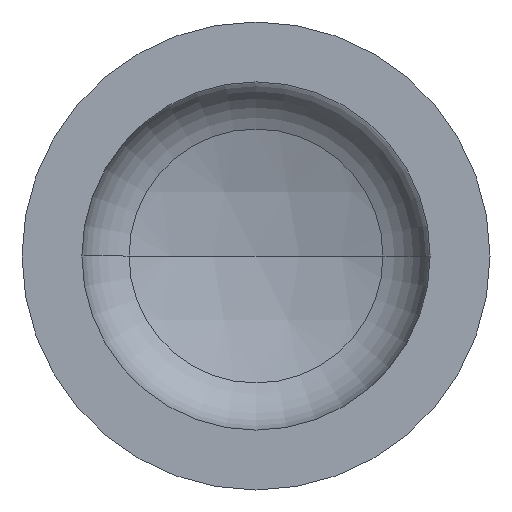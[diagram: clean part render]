
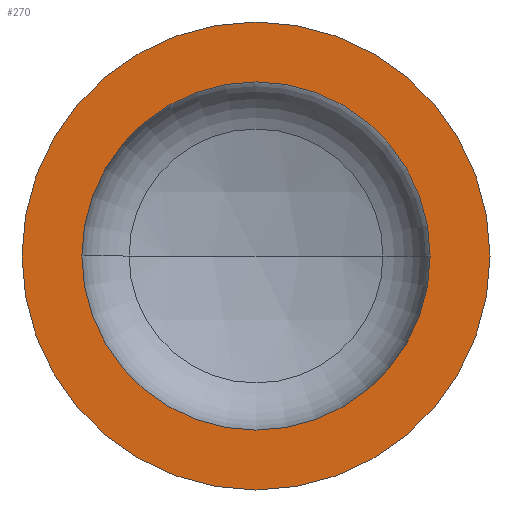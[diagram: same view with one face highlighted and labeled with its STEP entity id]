
A CAD part, front view. The second image highlights one B-rep face of the part: STEP entity #270.
In plain terms, the highlighted planar face has unit normal (0, -1, 0).
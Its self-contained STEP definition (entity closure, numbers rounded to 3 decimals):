
#4 = EDGE_LOOP ( 'NONE', ( #327, #29 ) ) ;
#6 = AXIS2_PLACEMENT_3D ( 'NONE', #404, #218, #387 ) ;
#8 = CARTESIAN_POINT ( 'NONE',  ( -203.2, 0., 0. ) ) ;
#13 = AXIS2_PLACEMENT_3D ( 'NONE', #160, #381, #25 ) ;
#18 = VERTEX_POINT ( 'NONE', #276 ) ;
#25 = DIRECTION ( 'NONE',  ( 1., 0., 0. ) ) ;
#27 = VERTEX_POINT ( 'NONE', #244 ) ;
#29 = ORIENTED_EDGE ( 'NONE', *, *, #338, .T. ) ;
#32 = AXIS2_PLACEMENT_3D ( 'NONE', #391, #167, #115 ) ;
#47 = AXIS2_PLACEMENT_3D ( 'NONE', #247, #245, #272 ) ;
#52 = AXIS2_PLACEMENT_3D ( 'NONE', #8, #188, #185 ) ;
#60 = EDGE_LOOP ( 'NONE', ( #68, #129 ) ) ;
#65 = VERTEX_POINT ( 'NONE', #278 ) ;
#68 = ORIENTED_EDGE ( 'NONE', *, *, #324, .F. ) ;
#80 = VERTEX_POINT ( 'NONE', #220 ) ;
#115 = DIRECTION ( 'NONE',  ( 1., 0., 0. ) ) ;
#118 = CIRCLE ( 'NONE', #32, 151.2 ) ;
#129 = ORIENTED_EDGE ( 'NONE', *, *, #292, .F. ) ;
#160 = CARTESIAN_POINT ( 'NONE',  ( 0., 0., 0. ) ) ;
#167 = DIRECTION ( 'NONE',  ( 0., -1., 0. ) ) ;
#185 = DIRECTION ( 'NONE',  ( -1., 0., 0. ) ) ;
#188 = DIRECTION ( 'NONE',  ( 0., 1., 0. ) ) ;
#215 = CIRCLE ( 'NONE', #47, 151.2 ) ;
#218 = DIRECTION ( 'NONE',  ( 0., -1., 0. ) ) ;
#220 = CARTESIAN_POINT ( 'NONE',  ( 203.2, 0., 0. ) ) ;
#229 = FACE_BOUND ( 'NONE', #60, .T. ) ;
#239 = PLANE ( 'NONE',  #52 ) ;
#244 = CARTESIAN_POINT ( 'NONE',  ( -203.2, 0., 0. ) ) ;
#245 = DIRECTION ( 'NONE',  ( 0., -1., 0. ) ) ;
#247 = CARTESIAN_POINT ( 'NONE',  ( 0., 0., 0. ) ) ;
#270 = ADVANCED_FACE ( 'NONE', ( #229, #401 ), #239, .F. ) ;
#272 = DIRECTION ( 'NONE',  ( 1., 0., 0. ) ) ;
#276 = CARTESIAN_POINT ( 'NONE',  ( 151.2, 0., 0. ) ) ;
#278 = CARTESIAN_POINT ( 'NONE',  ( -151.2, 0., 0. ) ) ;
#292 = EDGE_CURVE ( 'NONE', #65, #18, #215, .T. ) ;
#312 = CIRCLE ( 'NONE', #6, 203.2 ) ;
#321 = CIRCLE ( 'NONE', #13, 203.2 ) ;
#324 = EDGE_CURVE ( 'NONE', #18, #65, #118, .T. ) ;
#327 = ORIENTED_EDGE ( 'NONE', *, *, #354, .T. ) ;
#338 = EDGE_CURVE ( 'NONE', #27, #80, #321, .T. ) ;
#354 = EDGE_CURVE ( 'NONE', #80, #27, #312, .T. ) ;
#381 = DIRECTION ( 'NONE',  ( 0., -1., 0. ) ) ;
#387 = DIRECTION ( 'NONE',  ( 1., 0., 0. ) ) ;
#391 = CARTESIAN_POINT ( 'NONE',  ( 0., 0., 0. ) ) ;
#401 = FACE_OUTER_BOUND ( 'NONE', #4, .T. ) ;
#404 = CARTESIAN_POINT ( 'NONE',  ( 0., 0., 0. ) ) ;
